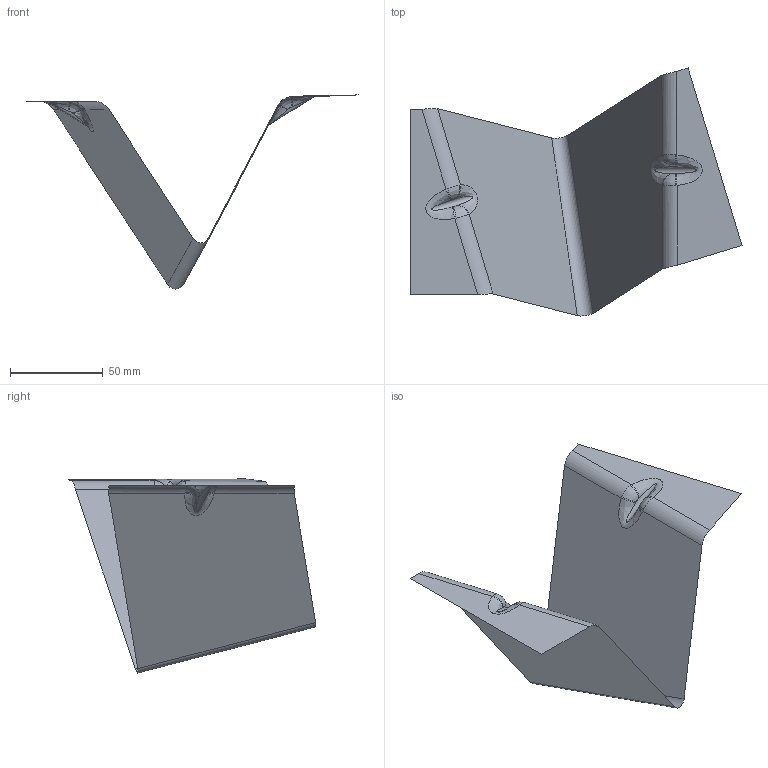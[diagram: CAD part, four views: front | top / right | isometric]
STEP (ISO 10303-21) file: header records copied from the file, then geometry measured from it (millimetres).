
FILE_DESCRIPTION(('CATIA V5 STEP Exchange'),'2;1');
FILE_NAME('C:\_Andres\UNIVERSIDAD\IQS\ASIGNATURAS\DAO\EXF\EXF-16172c\2inicio\Sastre_Cabrerizo_Ej03_v34.stp','2017-03-05T19:32:34+00:00',('none'),('none'),'CATIA Version 5-6 Release 2014 SP1 HF18','CATIA V5 STEP AP203','none');
FILE_SCHEMA(('CONFIG_CONTROL_DESIGN'));
Length unit declared in the file: millimetre
Products named in the file (1): Sastre_Cabrerizo_Ej03_v34
Bounding box: 178.95 x 133.54 x 104.62 mm (x, y, z)
Surface area: 27262 mm2 (no closed solid volume)
Topology: 0 solids, 1 shells, 31 faces, 78 edges, 48 vertices
Faces by surface type: bspline 16, plane 8, cylinder 7
Entity records: 2911 total; most frequent: CARTESIAN_POINT 2306, ORIENTED_EDGE 140, EDGE_CURVE 78, DIRECTION 52, B_SPLINE_CURVE_WITH_KNOTS 52, VERTEX_POINT 48, ADVANCED_FACE 31, EDGE_LOOP 31
